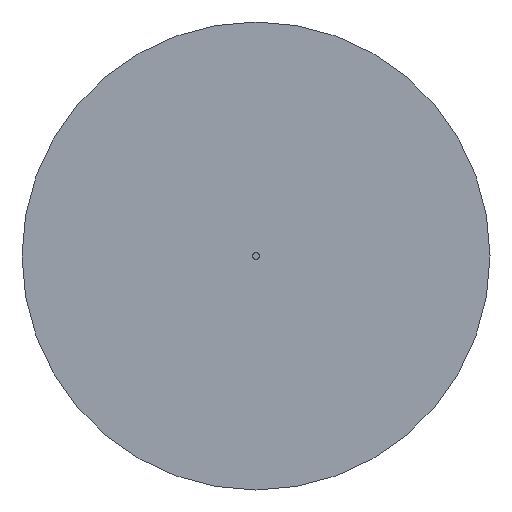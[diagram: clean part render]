
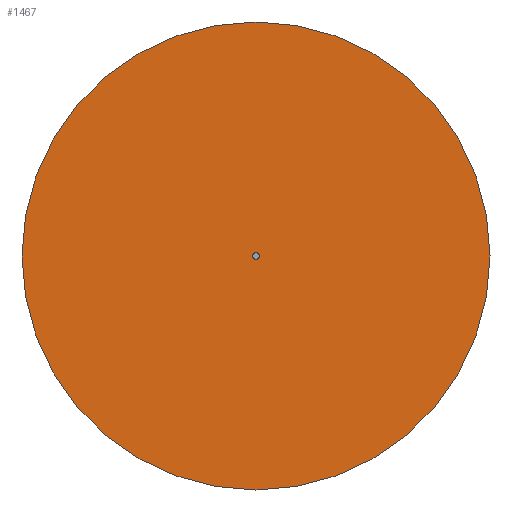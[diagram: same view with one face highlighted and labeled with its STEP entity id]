
A CAD part, front view. The second image highlights one B-rep face of the part: STEP entity #1467.
In plain terms, the highlighted planar face has unit normal (0, -1, 0).
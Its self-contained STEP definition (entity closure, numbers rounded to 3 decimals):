
#143=CARTESIAN_POINT('',(70.,-21.5,0.));
#144=VERTEX_POINT('',#143);
#160=CARTESIAN_POINT('',(-70.,-21.5,0.));
#161=VERTEX_POINT('',#160);
#168=CARTESIAN_POINT('',(0.0,-21.5,0.));
#169=DIRECTION('',(0.0,-1.0,0.0));
#170=DIRECTION('',(1.0,0.0,0.0));
#171=AXIS2_PLACEMENT_3D('',#168,#169,#170);
#172=CIRCLE('',#171,70.);
#173=EDGE_CURVE('',#144,#161,#172,.T.);
#795=CARTESIAN_POINT('',(1.094,-21.5,0.));
#796=VERTEX_POINT('',#795);
#811=CARTESIAN_POINT('',(-1.094,-21.5,0.));
#812=VERTEX_POINT('',#811);
#819=CARTESIAN_POINT('',(0.0,-21.5,0.));
#820=DIRECTION('',(0.0,-1.0,0.0));
#821=DIRECTION('',(1.0,0.0,0.0));
#822=AXIS2_PLACEMENT_3D('',#819,#820,#821);
#823=CIRCLE('',#822,1.094);
#824=EDGE_CURVE('',#812,#796,#823,.T.);
#1043=CARTESIAN_POINT('',(0.0,-21.5,0.));
#1044=DIRECTION('',(0.0,-1.0,0.0));
#1045=DIRECTION('',(1.0,0.0,0.0));
#1046=AXIS2_PLACEMENT_3D('',#1043,#1044,#1045);
#1047=CIRCLE('',#1046,1.094);
#1048=EDGE_CURVE('',#796,#812,#1047,.T.);
#1442=CARTESIAN_POINT('',(0.0,-21.5,0.));
#1443=DIRECTION('',(0.0,-1.0,0.0));
#1444=DIRECTION('',(1.0,0.0,0.0));
#1445=AXIS2_PLACEMENT_3D('',#1442,#1443,#1444);
#1446=CIRCLE('',#1445,70.);
#1447=EDGE_CURVE('',#161,#144,#1446,.T.);
#1454=CARTESIAN_POINT('',(35.547,-21.5,0.));
#1455=DIRECTION('',(0.0,-1.0,0.0));
#1456=DIRECTION('',(0.0,0.0,-1.0));
#1457=AXIS2_PLACEMENT_3D('',#1454,#1455,#1456);
#1458=PLANE('',#1457);
#1459=ORIENTED_EDGE('',*,*,#173,.T.);
#1460=ORIENTED_EDGE('',*,*,#1447,.T.);
#1461=EDGE_LOOP('',(#1459,#1460));
#1462=FACE_OUTER_BOUND('',#1461,.T.);
#1463=ORIENTED_EDGE('',*,*,#1048,.F.);
#1464=ORIENTED_EDGE('',*,*,#824,.F.);
#1465=EDGE_LOOP('',(#1463,#1464));
#1466=FACE_BOUND('',#1465,.T.);
#1467=ADVANCED_FACE('',(#1462,#1466),#1458,.T.);
